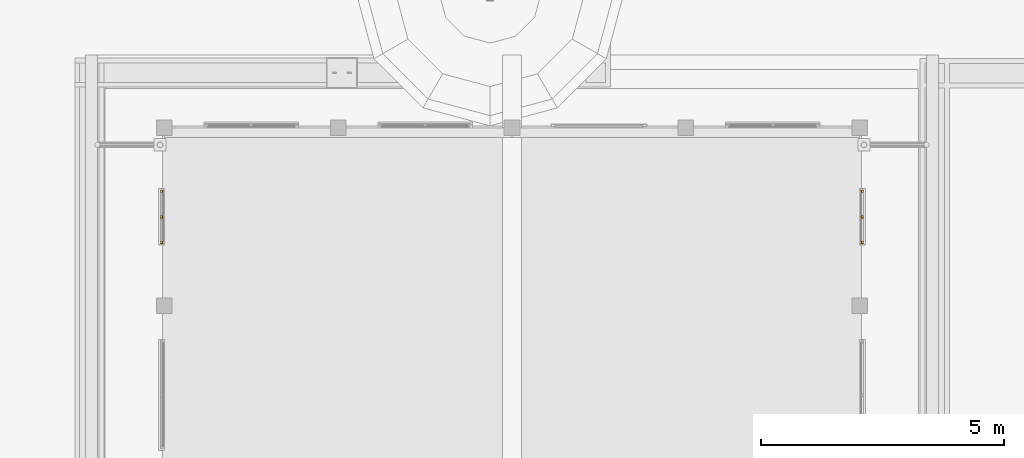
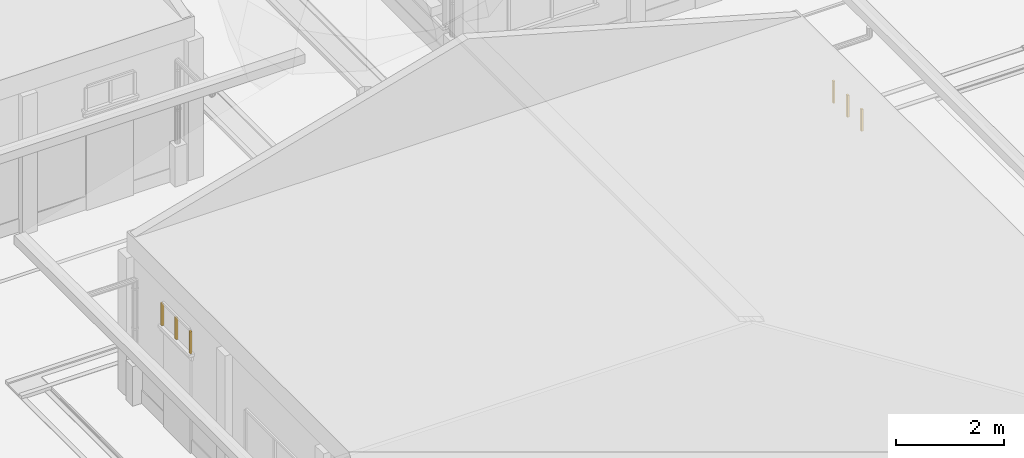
# One storey, part 86 of 177: 6 windows.
"""IFC4 building model written with IfcOpenShell, lengths in metres."""

import ifcopenshell
import ifcopenshell.guid

model = None  # the IFC model being written
_history = None  # IfcOwnerHistory: only IFC2X3 demands one
_inside = {}  # id of a spatial element -> (the spatial element, [elements in it])
_under = {}  # id of a project, library or spatial element -> (it, [spatial elements below it])
_declared = {}  # id of a project -> (the project, [libraries it declares])
_typed = {}  # id of a type object -> (the type object, [elements of that type])
_made_of = {}  # id of a material, layer set ... -> (it, [elements and type objects made of it])


def new_model(schema):
    """Start an empty IFC model of exactly this schema.

    Asked for "IFC4X3", IfcOpenShell would pick the latest addendum, in which some entities
    have other attributes; the version numbers below select the first issue.
    IFC2X3 requires an IfcOwnerHistory on every rooted entity: one is made here for all.
    """
    global model, _history
    if schema == "IFC4X3":
        model = ifcopenshell.file(schema_version=(4, 3, 0, 0))
    else:
        model = ifcopenshell.file(schema=schema)
    _inside.clear()
    _under.clear()
    _declared.clear()
    _typed.clear()
    _made_of.clear()
    _history = None
    if model.schema == "IFC2X3":
        org = make("IfcOrganization", Name="unknown")
        user = make(
            "IfcPersonAndOrganization",
            ThePerson=make("IfcPerson", FamilyName="unknown"),
            TheOrganization=org,
        )
        app = make(
            "IfcApplication",
            ApplicationDeveloper=org,
            Version="unknown",
            ApplicationFullName="unknown",
            ApplicationIdentifier="unknown",
        )
        _history = make(
            "IfcOwnerHistory",
            OwningUser=user,
            OwningApplication=app,
            ChangeAction="ADDED",
            CreationDate=0,
        )
    return model


def make(cls, **values):
    """One entity of the class cls with the attributes given. An attribute that is None is left unset."""
    return model.create_entity(
        cls, **{name: value for name, value in values.items() if value is not None}
    )


def rooted(cls, **values):
    """An entity with a GlobalId (a new one), such as an element, a storey or a relation."""
    return make(cls, GlobalId=ifcopenshell.guid.new(), OwnerHistory=_history, **values)


def si_unit(unit_type, name, prefix=None):
    """IfcSIUnit, for example si_unit("LENGTHUNIT", "METRE", prefix="MILLI")."""
    return make("IfcSIUnit", UnitType=unit_type, Prefix=prefix, Name=name)


def assignment(units):
    """IfcUnitAssignment: the units of a project."""
    return None if units is None else make("IfcUnitAssignment", Units=units)


def point(xyz):
    """IfcCartesianPoint."""
    return None if xyz is None else make("IfcCartesianPoint", Coordinates=xyz)


def direction(xyz):
    """IfcDirection."""
    return None if xyz is None else make("IfcDirection", DirectionRatios=xyz)


def frame(location, z_axis=None, x_axis=None):
    """IfcAxis2Placement3D, a coordinate frame: its origin and axes. An axis left out is left unset."""
    return make(
        "IfcAxis2Placement3D",
        Location=point(location),
        Axis=direction(z_axis),
        RefDirection=direction(x_axis),
    )


def origin():
    """The frame at (0, 0, 0) with its axes left unset."""
    return frame((0.0, 0.0, 0.0))


def origin_with_axes():
    """The frame at (0, 0, 0) with the z axis (0, 0, 1) and the x axis (1, 0, 0) written out."""
    return frame((0.0, 0.0, 0.0), z_axis=(0.0, 0.0, 1.0), x_axis=(1.0, 0.0, 0.0))


def place(relative_to, where):
    """IfcLocalPlacement: puts the frame where relative to a parent placement (None: the world)."""
    return make(
        "IfcLocalPlacement", PlacementRelTo=relative_to, RelativePlacement=where
    )


def context(
    kind, dimensions, precision=None, world=None, true_north=None, identifier=None
):
    """IfcGeometricRepresentationContext, for example the 3D "Model" context."""
    return make(
        "IfcGeometricRepresentationContext",
        ContextIdentifier=identifier,
        ContextType=kind,
        CoordinateSpaceDimension=dimensions,
        Precision=precision,
        WorldCoordinateSystem=world,
        TrueNorth=true_north,
    )


def subcontext(parent, identifier, kind, view, scale=None):
    """IfcGeometricRepresentationSubContext, for example "Body" below "Model"."""
    return make(
        "IfcGeometricRepresentationSubContext",
        ContextIdentifier=identifier,
        ContextType=kind,
        ParentContext=parent,
        TargetScale=scale,
        TargetView=view,
    )


def project(units=None, contexts=None):
    """IfcProject with its units and contexts."""
    return rooted(
        "IfcProject",
        Name="project",
        RepresentationContexts=contexts,
        UnitsInContext=assignment(units),
    )


def spatial(cls, under=None, at=None, **own):
    """A site, building, storey or space (cls), placed at a placement, below another one or the project."""
    s = rooted(cls, ObjectPlacement=at, **own)
    if under is not None:
        _under.setdefault(under.id(), (under, []))[1].append(s)
    return s


def point_list(points):
    """IfcCartesianPointList2D or 3D."""
    cls = (
        "IfcCartesianPointList2D" if len(points[0]) == 2 else "IfcCartesianPointList3D"
    )
    return make(cls, CoordList=points)


def triangles(points, corners, closed=None, point_numbers=None):
    """IfcTriangulatedFaceSet: each triangle names its three corners, points numbered from 1."""
    return make(
        "IfcTriangulatedFaceSet",
        Coordinates=point_list(points),
        Closed=closed,
        CoordIndex=corners,
        PnIndex=point_numbers,
    )


def shape(context_of_items, identifier, shape_type, items):
    """IfcShapeRepresentation: the items that make up one representation, for example the "Body"."""
    return make(
        "IfcShapeRepresentation",
        ContextOfItems=context_of_items,
        RepresentationIdentifier=identifier,
        RepresentationType=shape_type,
        Items=items,
    )


def made_of(thing, what):
    """Note that an element or type object is made of a material, layer set ...; save() writes the relation."""
    if what is not None:
        _made_of.setdefault(what.id(), (what, []))[1].append(thing)
    return thing


def element(
    cls,
    number,
    at=None,
    inside=None,
    cuts=None,
    type_object=None,
    material=None,
    context=None,
    identifier="Body",
    shape_type=None,
    held_by="IfcProductDefinitionShape",
    body=None,
    shapes=None,
    **own,
):
    """One element of the class cls, such as IfcWall. Its Tag is "e" and its number.

    at: its placement. inside: the storey or other place that contains it. cuts: it is an
    opening in that element (IfcRelVoidsElement). A single representation is given by context,
    identifier, shape_type and body (its items); several are given by shapes. held_by: the class
    of the entity that holds the representations. save() writes the other relations.
    """
    e = rooted(cls, Tag="e%d" % number, ObjectPlacement=at, **own)
    if body is not None:
        shapes = [shape(context, identifier, shape_type, body)]
    if shapes is not None:
        e.Representation = make(held_by, Representations=shapes)
    if inside is not None:
        _inside.setdefault(inside.id(), (inside, []))[1].append(e)
    if cuts is not None:
        rooted(
            "IfcRelVoidsElement", RelatingBuildingElement=cuts, RelatedOpeningElement=e
        )
    if type_object is not None:
        _typed.setdefault(type_object.id(), (type_object, []))[1].append(e)
    return made_of(e, material)


def aggregate(whole, parts):
    """IfcRelAggregates: a whole, such as a stair, and the parts it consists of."""
    return rooted("IfcRelAggregates", RelatingObject=whole, RelatedObjects=parts)


def save(model, path):
    """Write the relations noted so far, then the file.

    IfcRelAggregates (storeys below a building ...), IfcRelContainedInSpatialStructure (elements
    in a storey), IfcRelDefinesByType, IfcRelAssociatesMaterial and IfcRelDeclares: one each for
    every whole, place, type object, material and project.
    """
    for whole, parts in _under.values():
        aggregate(whole, parts)
    for where, things in _inside.values():
        rooted(
            "IfcRelContainedInSpatialStructure",
            RelatedElements=things,
            RelatingStructure=where,
        )
    for kind, things in _typed.values():
        rooted("IfcRelDefinesByType", RelatedObjects=things, RelatingType=kind)
    for what, things in _made_of.values():
        rooted("IfcRelAssociatesMaterial", RelatedObjects=things, RelatingMaterial=what)
    for by, libraries in _declared.values():
        rooted("IfcRelDeclares", RelatingContext=by, RelatedDefinitions=libraries)
    model.write(path)


model = new_model("IFC4")

# Units and contexts
model_context = context("Model", 3, precision=1e-05, world=origin_with_axes())
body_context = subcontext(model_context, "Body", "Model", "MODEL_VIEW")
ifc_project = project(units=[si_unit("LENGTHUNIT", "METRE"), si_unit("AREAUNIT", "SQUARE_METRE"), si_unit("VOLUMEUNIT", "CUBIC_METRE"), si_unit("PLANEANGLEUNIT", "RADIAN")], contexts=[model_context])

# Site, building, storey
site_placement = place(None, origin_with_axes())
site = spatial("IfcSite", under=ifc_project, at=site_placement, Name="Predio Los Mangos - Morales, San Martín", CompositionType="ELEMENT")
building_placement = place(site_placement, origin())
building = spatial("IfcBuilding", under=site, at=building_placement, Name="Hogar de Refugio Temporal", CompositionType="ELEMENT")
storey_placement = place(building_placement, origin())
storey = spatial("IfcBuildingStorey", under=building, at=storey_placement, Name="NIVEL 1 (NPT +0.00)", CompositionType="ELEMENT", Elevation=0.0)

# Windows
window_1_placement = place(storey_placement, origin())
element("IfcWindow", 1, at=window_1_placement, inside=storey, Name="E-05_vt7_m", ObjectType="Ventana", PredefinedType="WINDOW", context=body_context, shape_type="Tessellation", body=[
    triangles([(45.22, 84.8187, 2.45), (45.26, 84.8187, 2.45), (45.26, 84.8688, 2.45), (45.22, 84.8688, 2.45), (45.22, 84.8187, 2.95), (45.26, 84.8187, 2.95), (45.26, 84.8688, 2.95), (45.22, 84.8688, 2.95)], [[1, 4, 3], [1, 3, 2], [5, 6, 7], [5, 7, 8], [1, 2, 6], [1, 6, 5], [2, 3, 7], [2, 7, 6], [3, 4, 8], [3, 8, 7], [4, 1, 5], [4, 5, 8]]),
])
window_2_placement = place(storey_placement, origin())
element("IfcWindow", 2, at=window_2_placement, inside=storey, Name="E-05_vt7_m", ObjectType="Ventana", PredefinedType="WINDOW", context=body_context, shape_type="Tessellation", body=[
    triangles([(45.22, 85.8688, 2.45), (45.26, 85.8688, 2.45), (45.26, 85.9187, 2.45), (45.22, 85.9187, 2.45), (45.22, 85.8688, 2.95), (45.26, 85.8688, 2.95), (45.26, 85.9187, 2.95), (45.22, 85.9187, 2.95)], [[1, 4, 3], [1, 3, 2], [5, 6, 7], [5, 7, 8], [1, 2, 6], [1, 6, 5], [2, 3, 7], [2, 7, 6], [3, 4, 8], [3, 8, 7], [4, 1, 5], [4, 5, 8]]),
])
window_3_placement = place(storey_placement, origin())
element("IfcWindow", 3, at=window_3_placement, inside=storey, Name="E-05_vt7_m", ObjectType="Ventana", PredefinedType="WINDOW", context=body_context, shape_type="Tessellation", body=[
    triangles([(45.22, 85.3438, 2.45), (45.26, 85.3438, 2.45), (45.26, 85.3938, 2.45), (45.22, 85.3938, 2.45), (45.22, 85.3438, 2.95), (45.26, 85.3438, 2.95), (45.26, 85.3938, 2.95), (45.22, 85.3938, 2.95)], [[1, 4, 3], [1, 3, 2], [5, 6, 7], [5, 7, 8], [1, 2, 6], [1, 6, 5], [2, 3, 7], [2, 7, 6], [3, 4, 8], [3, 8, 7], [4, 1, 5], [4, 5, 8]]),
])
window_4_placement = place(storey_placement, origin())
element("IfcWindow", 4, at=window_4_placement, inside=storey, Name="E-05_vt7_m", ObjectType="Ventana", PredefinedType="WINDOW", context=body_context, shape_type="Tessellation", body=[
    triangles([(59.64, 84.8187, 2.45), (59.68, 84.8187, 2.45), (59.68, 84.8688, 2.45), (59.64, 84.8688, 2.45), (59.64, 84.8187, 2.95), (59.68, 84.8187, 2.95), (59.68, 84.8688, 2.95), (59.64, 84.8688, 2.95)], [[1, 4, 3], [1, 3, 2], [5, 6, 7], [5, 7, 8], [1, 2, 6], [1, 6, 5], [2, 3, 7], [2, 7, 6], [3, 4, 8], [3, 8, 7], [4, 1, 5], [4, 5, 8]]),
])
window_5_placement = place(storey_placement, origin())
element("IfcWindow", 5, at=window_5_placement, inside=storey, Name="E-05_vt7_m", ObjectType="Ventana", PredefinedType="WINDOW", context=body_context, shape_type="Tessellation", body=[
    triangles([(59.64, 85.8688, 2.45), (59.68, 85.8688, 2.45), (59.68, 85.9187, 2.45), (59.64, 85.9187, 2.45), (59.64, 85.8688, 2.95), (59.68, 85.8688, 2.95), (59.68, 85.9187, 2.95), (59.64, 85.9187, 2.95)], [[1, 4, 3], [1, 3, 2], [5, 6, 7], [5, 7, 8], [1, 2, 6], [1, 6, 5], [2, 3, 7], [2, 7, 6], [3, 4, 8], [3, 8, 7], [4, 1, 5], [4, 5, 8]]),
])
window_6_placement = place(storey_placement, origin())
element("IfcWindow", 6, at=window_6_placement, inside=storey, Name="E-05_vt7_m", ObjectType="Ventana", PredefinedType="WINDOW", context=body_context, shape_type="Tessellation", body=[
    triangles([(59.64, 85.3438, 2.45), (59.68, 85.3438, 2.45), (59.68, 85.3938, 2.45), (59.64, 85.3938, 2.45), (59.64, 85.3438, 2.95), (59.68, 85.3438, 2.95), (59.68, 85.3938, 2.95), (59.64, 85.3938, 2.95)], [[1, 4, 3], [1, 3, 2], [5, 6, 7], [5, 7, 8], [1, 2, 6], [1, 6, 5], [2, 3, 7], [2, 7, 6], [3, 4, 8], [3, 8, 7], [4, 1, 5], [4, 5, 8]]),
])

save(model, "model.ifc")
